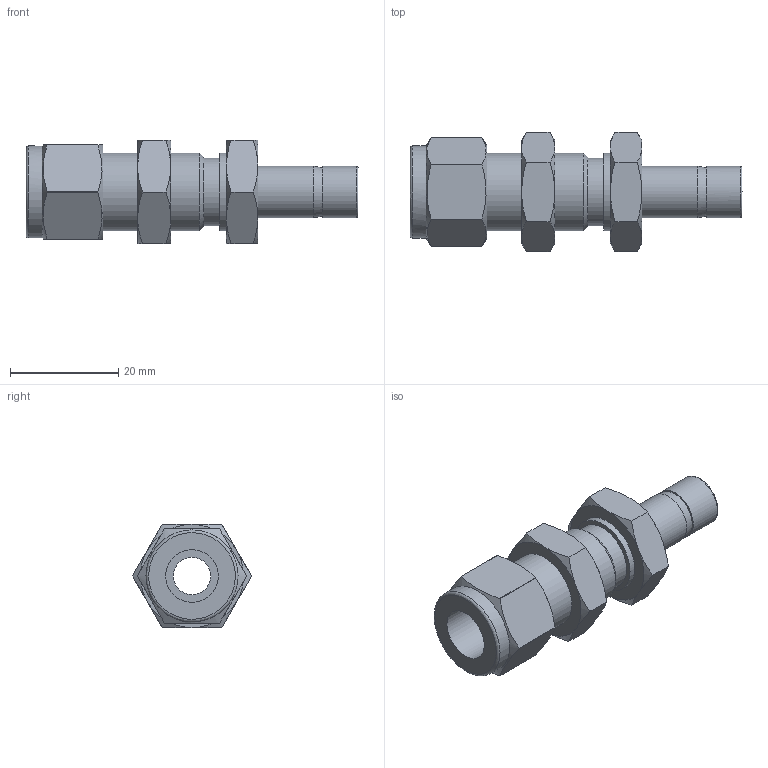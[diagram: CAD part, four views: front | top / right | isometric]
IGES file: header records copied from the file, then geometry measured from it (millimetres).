
Global section: file name: SRB-6-6; native system: Autodesk Inventor 2016; preprocessor: unknown; author: 배성훈,,11,0; organization: 20151111.082354; date: 20151113.104517; units: millimetre
Bounding box: 61.31 x 22 x 19.05 mm (x, y, z)
Volume: 8279.5 mm3; surface area: 5414.2 mm2
Topology: 1 solids, 1 shells, 74 faces, 197 edges, 134 vertices
Faces by surface type: bspline 74
